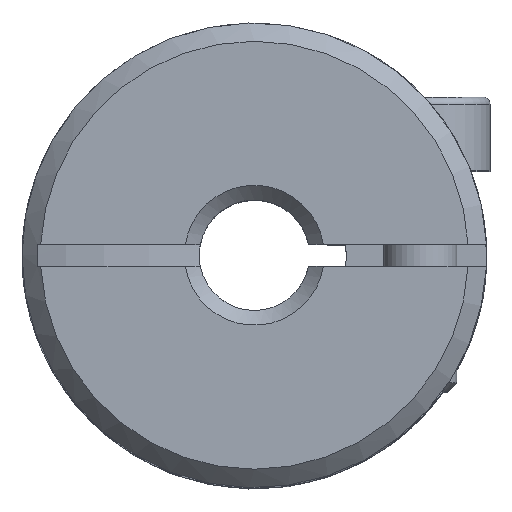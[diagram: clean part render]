
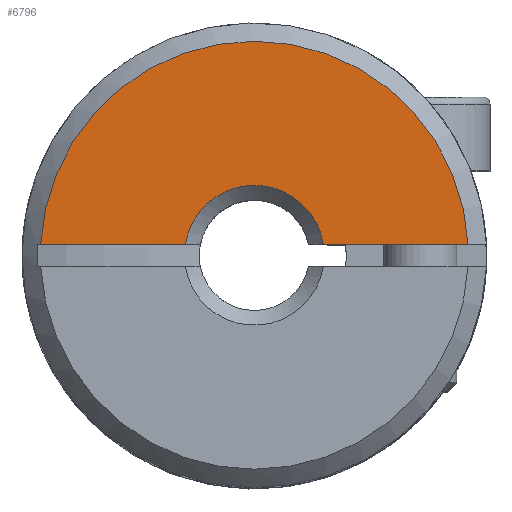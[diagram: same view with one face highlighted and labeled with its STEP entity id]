
A CAD part, top view. The second image highlights one B-rep face of the part: STEP entity #6796.
In plain terms, the highlighted planar face has unit normal (0, 0, 1).
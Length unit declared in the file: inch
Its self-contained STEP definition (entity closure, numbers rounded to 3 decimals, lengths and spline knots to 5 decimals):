
#3410=DIRECTION('',(-1.,0.,0.));
#3411=VECTOR('',#3410,0.15467);
#3412=CARTESIAN_POINT('',(0.22853,0.01181,
0.4498));
#3413=LINE('',#3412,#3411);
#3454=DIRECTION('',(-1.,0.,0.));
#3455=VECTOR('',#3454,0.15467);
#3456=CARTESIAN_POINT('',(-0.07386,0.01181,
0.4498));
#3457=LINE('',#3456,#3455);
#3468=CARTESIAN_POINT('',(0.,0.,0.4498));
#3469=DIRECTION('',(0.,0.,-1.));
#3470=DIRECTION('',(-0.987,0.158,0.));
#3471=AXIS2_PLACEMENT_3D('',#3468,#3469,#3470);
#3473=CARTESIAN_POINT('',(0.,0.,0.4498));
#3474=DIRECTION('',(0.,0.,1.));
#3475=DIRECTION('',(0.999,0.052,0.));
#3476=AXIS2_PLACEMENT_3D('',#3473,#3474,#3475);
#3495=CARTESIAN_POINT('',(0.22853,0.01181,
0.4498));
#4510=VERTEX_POINT('',#3495);
#4532=CARTESIAN_POINT('',(0.07386,0.01181,
0.4498));
#4533=VERTEX_POINT('',#4532);
#4545=CARTESIAN_POINT('',(-0.22853,0.01181,
0.4498));
#4546=VERTEX_POINT('',#4545);
#4589=CARTESIAN_POINT('',(-0.07386,0.01181,
0.4498));
#4590=VERTEX_POINT('',#4589);
#6783=CARTESIAN_POINT('',(0.,0.,0.4498));
#6784=DIRECTION('',(0.,0.,1.));
#6785=DIRECTION('',(1.,0.,0.));
#6786=AXIS2_PLACEMENT_3D('',#6783,#6784,#6785);
#6787=PLANE('',#6786);
#6788=ORIENTED_EDGE('',*,*,#6704,.T.);
#6790=ORIENTED_EDGE('',*,*,#6789,.F.);
#6791=ORIENTED_EDGE('',*,*,#6764,.T.);
#6793=ORIENTED_EDGE('',*,*,#6792,.F.);
#6794=EDGE_LOOP('',(#6788,#6790,#6791,#6793));
#6795=FACE_OUTER_BOUND('',#6794,.F.);
#3472=CIRCLE('',#3471,0.0748);
#3477=CIRCLE('',#3476,0.22884);
#6704=EDGE_CURVE('',#4510,#4533,#3413,.T.);
#6764=EDGE_CURVE('',#4590,#4546,#3457,.T.);
#6789=EDGE_CURVE('',#4590,#4533,#3472,.T.);
#6792=EDGE_CURVE('',#4510,#4546,#3477,.T.);
#6796=ADVANCED_FACE('',(#6795),#6787,.T.);
